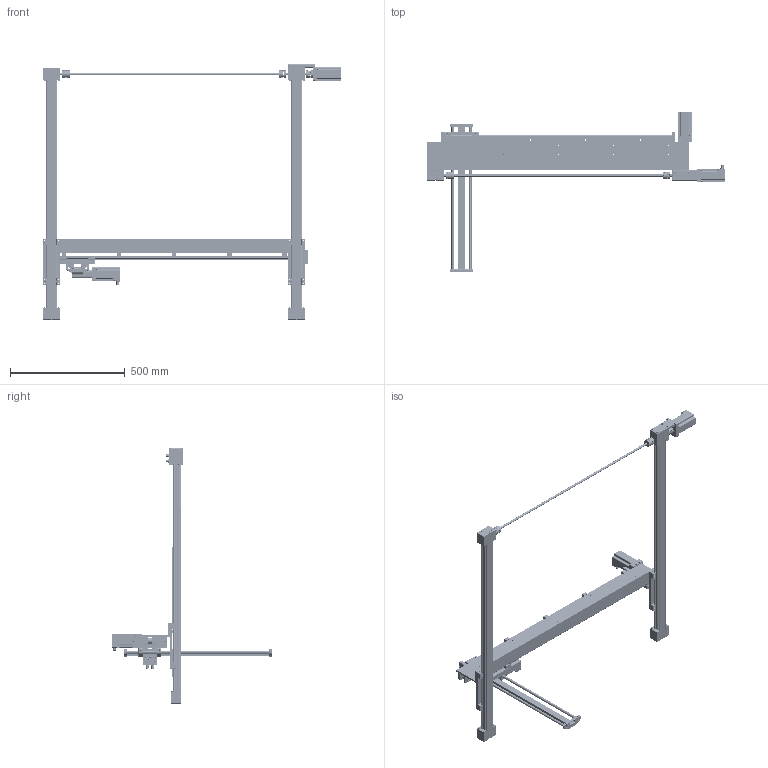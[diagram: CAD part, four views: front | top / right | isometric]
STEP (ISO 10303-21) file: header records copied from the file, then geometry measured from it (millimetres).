
FILE_DESCRIPTION(/* description */ (''),/* implementation_level */ '2;1');
FILE_NAME(/* name */ 'I:\Gleitlager\Konstruktion\SERIE NEU (im Aufbau!!)\drylin E\Portale\DLE-RG-XXXX\DLE-RG-0003\DLE-RG-0003.stp',/* time_stamp */ '2019-03-12T11:45:44+01:00',/* author */ ('fkleine'),/* organization */ (''),/* preprocessor_version */ 'ST-DEVELOPER v17',/* originating_system */ 'Autodesk Inventor 2018',/* authorisation */ '');
FILE_SCHEMA (('AUTOMOTIVE_DESIGN { 1 0 10303 214 3 1 1 }'));
Products named in the file (106): DLE-RG-0003; ZLW-S-; ZTF-104006; SAXT-104005; ZTF-10400S-R/L-V; SAWT-104003; MK-0111; MF-1040-NEMA23-S; ZTY-104004; ZTY-104010; MH-06; NOR-10517; NOR-20114; NOR-10523; NOR-11003; COU-AR-K-080-100-32-32-B-AAAA; ZLW-S-_1; ZSX-104001; ZTL-104002; SAXT-104001; ZTL-10400S-V; SAWT-104002; NOR-10412; ZR-104001; ZR-104001-XX; ZSY-104002; NOR-10703; ZTF-104002; SAXT-104003; SAXT-104002; ZTF-10400S-V; SAWT-104001; ZTY-104035; NOR-20901; JTEM-10; NOR-10614; ZTZ-104009; NOR-10604; COU-AR-K-100-100-32-32-B-AAAA; ZLW-10120S-H0BV0-D0A4B-AN0A0AI-800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
Assembly tree (282 placements, depth 5):
  DLE-RG-0003
    ZLW-S-
      ZSX-104001
      ZTL-104002
        SAXT-104001
        SAXT-104002
        NOR-10614  x2
        ZTL-10400S-V
          SAWT-104002
          NOR-10412  x4
          NOR-10604  x4
          JTEM-10  x4
          NOR-20901  x2
          ZTY-104035  x2
        ZTZ-104009  x2
      ZR-104001
        ZR-104001-XX
        NOR-10703  x2
        ZSY-104002  x2
      ZTF-104006
        SAXT-104005
        SAXT-104002
        NOR-10614  x2
        ZTF-10400S-R/L-V
          JTEM-10  x4
          NOR-20901  x2
          SAWT-104003
          ZTY-104035  x2
        ZTZ-104009  x2
        NOR-10604  x2
      MK-0111
        MF-1040-NEMA23-S
          ZTY-104004
          ZTY-104010
          MH-06  x2
          NOR-10517  x2
          NOR-20114  x4
          NOR-10523  x4
          NOR-11003  x4
        MOT-AN-S-060-035-060-M-C-AAAC
          1
          2
        COU-AR-K-080-100-32-32-B-AAAA
    ZLW-S-_1
      ZSX-104001
      ZTL-104002
        SAXT-104001
        SAXT-104002
        NOR-10614  x2
        ZTL-10400S-V
          SAWT-104002
          NOR-10412  x4
          NOR-10604  x4
          JTEM-10  x4
          NOR-20901  x2
          ZTY-104035  x2
        ZTZ-104009  x2
      ZR-104001
        ZR-104001-XX
        NOR-10703  x2
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Bounding box: 1296.5 x 697.5 x 1111.5 mm (x, y, z)
Volume: 6849525.9 mm3; surface area: 3010934.4 mm2
Topology: 340 solids, 342 shells, 13854 faces, 37669 edges, 24998 vertices
Faces by surface type: plane 6961, cylinder 4460, cone 846, torus 831, bspline 440, sphere 316
Full cylindrical faces by diameter (mm): 1.5 x80, 1.6 x1, 1.8 x27, 2 x25, 2.013 x8, 2.459 x12, 2.5 x20, 2.8 x12, 3 x12, 3.2 x1, 3.242 x58, 3.4 x2, 3.6 x4, 4 x54, 4.018 x4, 4.134 x66, 4.2 x26, 4.3 x12, 4.5 x24, 4.917 x62, 5 x126, 5.5 x39, 5.96 x4, 6 x53, 6.1 x8, 6.5 x8, 6.6 x42, 7 x97, 7.2 x8, 7.4 x6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
Entity records: 161595 total; most frequent: CARTESIAN_POINT 34591, DIRECTION 26822, ORIENTED_EDGE 24980, EDGE_CURVE 12490, AXIS2_PLACEMENT_3D 10292, VERTEX_POINT 8367, LINE 6238, VECTOR 6238
